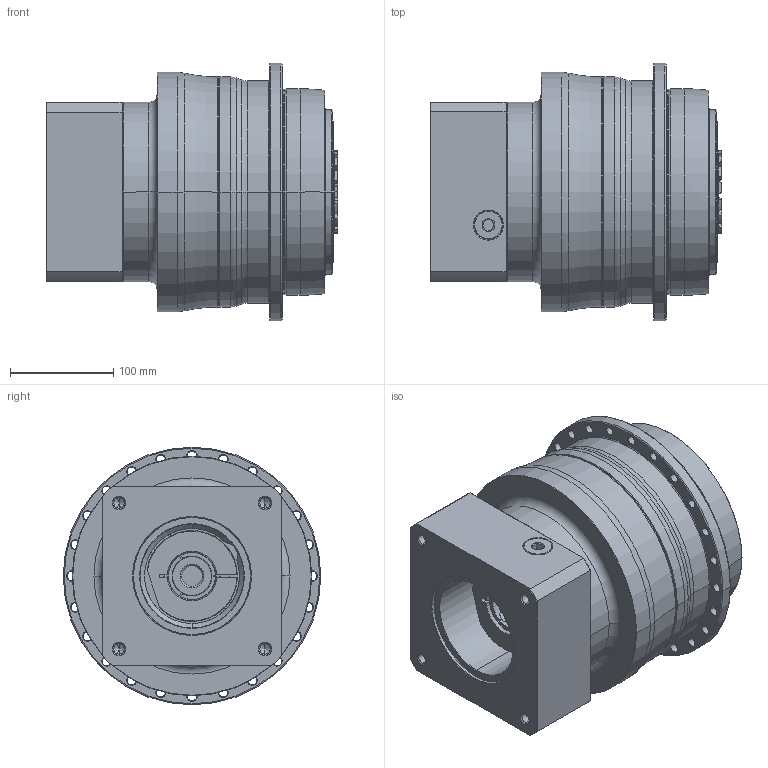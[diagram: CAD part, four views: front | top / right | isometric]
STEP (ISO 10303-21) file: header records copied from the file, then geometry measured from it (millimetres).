
FILE_DESCRIPTION((''),'2;1');
FILE_NAME('APC200_2ST_38-P0409910201_ASM','2018-06-28T',('d01226'),(''),'PRO/ENGINEER BY PARAMETRIC TECHNOLOGY CORPORATION, 2008410','PRO/ENGINEER BY PARAMETRIC TECHNOLOGY CORPORATION, 2008410','');
FILE_SCHEMA(('CONFIG_CONTROL_DESIGN'));
Length unit declared in the file: millimetre
Products named in the file (9): P0278601003; P0359660103; P1317610401; P0503900012; P0912554001; P1211600001; P0409910201; 21711422019; APC200_2ST_38-P0409910201_ASM
Assembly tree (8 placements, depth 2):
  APC200_2ST_38-P0409910201_ASM
    P0278601003
    P0359660103
    P1317610401
    P0503900012
    P0912554001
    P1211600001
    P0409910201
    21711422019
Bounding box: 282.6 x 249.5 x 249.5 mm (x, y, z)
Volume: 8369561.8 mm3; surface area: 642800.2 mm2
Topology: 9 solids, 19 shells, 669 faces, 1606 edges, 977 vertices
Faces by surface type: cone 222, cylinder 212, plane 120, torus 101, bspline 14
Entity records: 24733 total; most frequent: CARTESIAN_POINT 8729, DIRECTION 3587, ORIENTED_EDGE 3134, EDGE_CURVE 1588, AXIS2_PLACEMENT_3D 1555, VERTEX_POINT 977, CIRCLE 873, EDGE_LOOP 773
